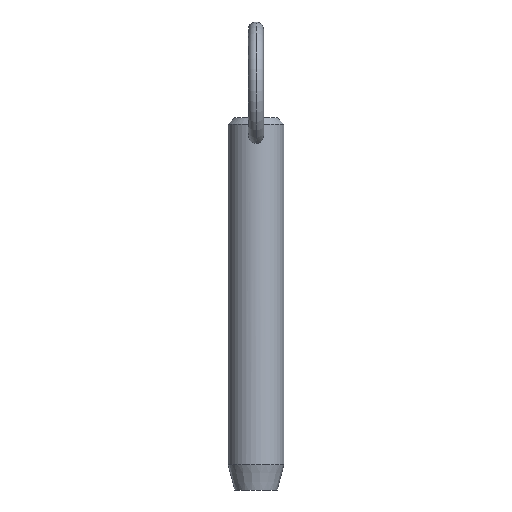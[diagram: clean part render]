
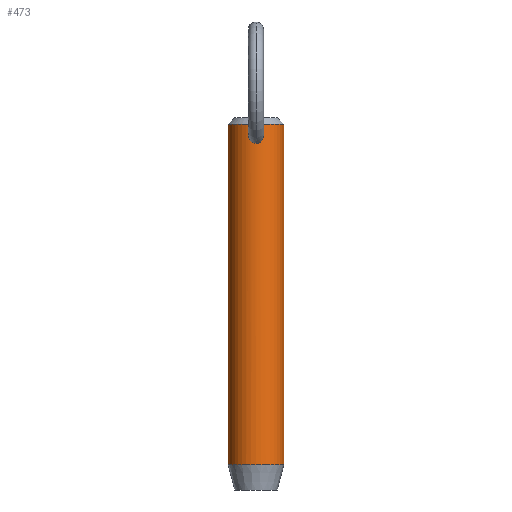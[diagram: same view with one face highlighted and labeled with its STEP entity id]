
A CAD part, front view. The second image highlights one B-rep face of the part: STEP entity #473.
In plain terms, the highlighted cylindrical face has radius 5.55 mm (diameter 11.1 mm), a partial arc.
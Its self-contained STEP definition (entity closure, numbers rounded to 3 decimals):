
#1 = EDGE_CURVE ( 'NONE', #300, #58, #327, .T. ) ;
#13 = VECTOR ( 'NONE', #354, 1000. ) ;
#14 = EDGE_CURVE ( 'NONE', #20, #58, #146, .T. ) ;
#20 = VERTEX_POINT ( 'NONE', #51 ) ;
#31 = CARTESIAN_POINT ( 'NONE',  ( 1.363, -5.38, 55.434 ) ) ;
#32 = CARTESIAN_POINT ( 'NONE',  ( 5.55, 0., 53.3 ) ) ;
#34 = CARTESIAN_POINT ( 'NONE',  ( 1.055, -5.449, 55.005 ) ) ;
#36 = CARTESIAN_POINT ( 'NONE',  ( 0.716, -5.504, 54.752 ) ) ;
#38 = CARTESIAN_POINT ( 'NONE',  ( 0.214, -5.547, 58.028 ) ) ;
#47 = B_SPLINE_CURVE_WITH_KNOTS ( 'NONE', 3,
 ( #307, #270, #38, #325, #436, #234, #277, #393, #198, #522, #434, #398, #357, #363, #117, #31, #479, #34, #360, #114, #36, #279, #317, #76, #194, #145 ),
 .UNSPECIFIED., .F., .F.,
 ( 4, 2, 2, 2, 2, 2, 2, 2, 2, 2, 2, 2, 4 ),
 ( 0.005, 0.005, 0.005, 0.006, 0.006, 0.007, 0.007, 0.008, 0.008, 0.009, 0.009, 0.009, 0.01 ),
 .UNSPECIFIED. ) ;
#51 = CARTESIAN_POINT ( 'NONE',  ( 5.55, 0., 58.35 ) ) ;
#55 = CARTESIAN_POINT ( 'NONE',  ( -1.44, -5.36, 56.687 ) ) ;
#58 = VERTEX_POINT ( 'NONE', #150 ) ;
#59 = CARTESIAN_POINT ( 'NONE',  ( -0.785, -5.497, 57.758 ) ) ;
#76 = CARTESIAN_POINT ( 'NONE',  ( 0.213, -5.547, 54.588 ) ) ;
#82 = CARTESIAN_POINT ( 'NONE',  ( 0., -5.55, 54.577 ) ) ;
#83 = CARTESIAN_POINT ( 'NONE',  ( -0.107, -5.55, 54.577 ) ) ;
#94 = EDGE_LOOP ( 'NONE', ( #511, #323 ) ) ;
#109 = CARTESIAN_POINT ( 'NONE',  ( -0.106, -5.55, 58.045 ) ) ;
#114 = CARTESIAN_POINT ( 'NONE',  ( 0.807, -5.492, 54.806 ) ) ;
#117 = CARTESIAN_POINT ( 'NONE',  ( 1.455, -5.356, 55.738 ) ) ;
#119 = CARTESIAN_POINT ( 'NONE',  ( -1.054, -5.449, 55.004 ) ) ;
#130 = CARTESIAN_POINT ( 'NONE',  ( -5.55, 0., 58.35 ) ) ;
#134 = CARTESIAN_POINT ( 'NONE',  ( -0.416, -5.535, 57.967 ) ) ;
#139 = FACE_OUTER_BOUND ( 'NONE', #359, .T. ) ;
#143 = AXIS2_PLACEMENT_3D ( 'NONE', #148, #153, #314 ) ;
#145 = CARTESIAN_POINT ( 'NONE',  ( 0., -5.55, 54.577 ) ) ;
#146 = LINE ( 'NONE', #32, #222 ) ;
#148 = CARTESIAN_POINT ( 'NONE',  ( 0., 0., 58.35 ) ) ;
#150 = CARTESIAN_POINT ( 'NONE',  ( 5.55, 0., -9.2 ) ) ;
#152 = CARTESIAN_POINT ( 'NONE',  ( -0.807, -5.492, 54.805 ) ) ;
#153 = DIRECTION ( 'NONE',  ( 0., 0., -1. ) ) ;
#176 = CARTESIAN_POINT ( 'NONE',  ( -1.477, -5.35, 55.842 ) ) ;
#180 = CARTESIAN_POINT ( 'NONE',  ( 0., -5.55, 58.045 ) ) ;
#187 = ORIENTED_EDGE ( 'NONE', *, *, #504, .T. ) ;
#194 = CARTESIAN_POINT ( 'NONE',  ( 0.107, -5.55, 54.577 ) ) ;
#196 = DIRECTION ( 'NONE',  ( 0., 0., 1. ) ) ;
#198 = CARTESIAN_POINT ( 'NONE',  ( 1.295, -5.397, 57.082 ) ) ;
#203 = CARTESIAN_POINT ( 'NONE',  ( -0.716, -5.504, 54.752 ) ) ;
#206 = CARTESIAN_POINT ( 'NONE',  ( -0.42, -5.535, 54.632 ) ) ;
#222 = VECTOR ( 'NONE', #358, 1000. ) ;
#234 = CARTESIAN_POINT ( 'NONE',  ( 0.786, -5.497, 57.757 ) ) ;
#237 = CARTESIAN_POINT ( 'NONE',  ( -1.26, -5.407, 55.242 ) ) ;
#239 = CARTESIAN_POINT ( 'NONE',  ( -5.55, 0., 53.3 ) ) ;
#245 = VERTEX_POINT ( 'NONE', #82 ) ;
#248 = CARTESIAN_POINT ( 'NONE',  ( -5.55, 0., -9.2 ) ) ;
#254 = VERTEX_POINT ( 'NONE', #130 ) ;
#260 = CARTESIAN_POINT ( 'NONE',  ( -1.503, -5.343, 56.159 ) ) ;
#266 = CARTESIAN_POINT ( 'NONE',  ( 0., 0., 53.3 ) ) ;
#270 = CARTESIAN_POINT ( 'NONE',  ( 0.106, -5.55, 58.045 ) ) ;
#277 = CARTESIAN_POINT ( 'NONE',  ( 0.941, -5.471, 57.607 ) ) ;
#279 = CARTESIAN_POINT ( 'NONE',  ( 0.523, -5.526, 54.666 ) ) ;
#280 = CARTESIAN_POINT ( 'NONE',  ( 0., -5.55, 54.577 ) ) ;
#287 = AXIS2_PLACEMENT_3D ( 'NONE', #356, #196, #478 ) ;
#293 = VERTEX_POINT ( 'NONE', #371 ) ;
#295 = CARTESIAN_POINT ( 'NONE',  ( -1.485, -5.348, 56.479 ) ) ;
#298 = CARTESIAN_POINT ( 'NONE',  ( -0.939, -5.472, 57.61 ) ) ;
#299 = EDGE_CURVE ( 'NONE', #245, #293, #404, .T. ) ;
#300 = VERTEX_POINT ( 'NONE', #248 ) ;
#302 = CYLINDRICAL_SURFACE ( 'NONE', #460, 5.55 ) ;
#304 = CARTESIAN_POINT ( 'NONE',  ( -1.455, -5.356, 55.736 ) ) ;
#307 = CARTESIAN_POINT ( 'NONE',  ( 0., -5.55, 58.045 ) ) ;
#314 = DIRECTION ( 'NONE',  ( 1., 0., 0. ) ) ;
#317 = CARTESIAN_POINT ( 'NONE',  ( 0.421, -5.535, 54.632 ) ) ;
#320 = CARTESIAN_POINT ( 'NONE',  ( -0.212, -5.547, 54.588 ) ) ;
#323 = ORIENTED_EDGE ( 'NONE', *, *, #299, .T. ) ;
#325 = CARTESIAN_POINT ( 'NONE',  ( 0.417, -5.535, 57.967 ) ) ;
#327 = CIRCLE ( 'NONE', #287, 5.55 ) ;
#339 = CIRCLE ( 'NONE', #143, 5.55 ) ;
#341 = CARTESIAN_POINT ( 'NONE',  ( -1.294, -5.398, 57.086 ) ) ;
#343 = CARTESIAN_POINT ( 'NONE',  ( -0.513, -5.527, 57.923 ) ) ;
#344 = ORIENTED_EDGE ( 'NONE', *, *, #14, .F. ) ;
#354 = DIRECTION ( 'NONE',  ( 0., 0., -1. ) ) ;
#356 = CARTESIAN_POINT ( 'NONE',  ( 0., 0., -9.2 ) ) ;
#357 = CARTESIAN_POINT ( 'NONE',  ( 1.5, -5.343, 56.054 ) ) ;
#358 = DIRECTION ( 'NONE',  ( 0., 0., -1. ) ) ;
#359 = EDGE_LOOP ( 'NONE', ( #344, #187, #395, #502 ) ) ;
#360 = CARTESIAN_POINT ( 'NONE',  ( 0.977, -5.464, 54.932 ) ) ;
#363 = CARTESIAN_POINT ( 'NONE',  ( 1.477, -5.35, 55.844 ) ) ;
#364 = CARTESIAN_POINT ( 'NONE',  ( -1.362, -5.381, 55.432 ) ) ;
#371 = CARTESIAN_POINT ( 'NONE',  ( 0., -5.55, 58.045 ) ) ;
#379 = CARTESIAN_POINT ( 'NONE',  ( -1.195, -5.421, 57.271 ) ) ;
#393 = CARTESIAN_POINT ( 'NONE',  ( 1.194, -5.422, 57.271 ) ) ;
#395 = ORIENTED_EDGE ( 'NONE', *, *, #486, .T. ) ;
#398 = CARTESIAN_POINT ( 'NONE',  ( 1.503, -5.343, 56.159 ) ) ;
#404 = B_SPLINE_CURVE_WITH_KNOTS ( 'NONE', 3,
 ( #280, #83, #320, #206, #489, #203, #152, #438, #119, #237, #364, #304, #176, #505, #260, #295, #55, #341, #379, #298, #59, #343, #134, #420, #109, #180 ),
 .UNSPECIFIED., .F., .F.,
 ( 4, 2, 2, 2, 2, 2, 2, 2, 2, 2, 2, 2, 4 ),
 ( 0.01, 0.01, 0.01, 0.011, 0.011, 0.012, 0.012, 0.012, 0.013, 0.013, 0.014, 0.014, 0.015 ),
 .UNSPECIFIED. ) ;
#420 = CARTESIAN_POINT ( 'NONE',  ( -0.211, -5.547, 58.029 ) ) ;
#430 = DIRECTION ( 'NONE',  ( -1., 0., 0. ) ) ;
#433 = FACE_BOUND ( 'NONE', #94, .T. ) ;
#434 = CARTESIAN_POINT ( 'NONE',  ( 1.486, -5.347, 56.474 ) ) ;
#436 = CARTESIAN_POINT ( 'NONE',  ( 0.515, -5.527, 57.922 ) ) ;
#438 = CARTESIAN_POINT ( 'NONE',  ( -0.976, -5.464, 54.931 ) ) ;
#460 = AXIS2_PLACEMENT_3D ( 'NONE', #266, #509, #430 ) ;
#472 = EDGE_CURVE ( 'NONE', #293, #245, #47, .T. ) ;
#473 = ADVANCED_FACE ( 'NONE', ( #139, #433 ), #302, .T. ) ;
#478 = DIRECTION ( 'NONE',  ( -1., 0., 0. ) ) ;
#479 = CARTESIAN_POINT ( 'NONE',  ( 1.26, -5.407, 55.243 ) ) ;
#486 = EDGE_CURVE ( 'NONE', #254, #300, #497, .T. ) ;
#489 = CARTESIAN_POINT ( 'NONE',  ( -0.523, -5.526, 54.666 ) ) ;
#497 = LINE ( 'NONE', #239, #13 ) ;
#502 = ORIENTED_EDGE ( 'NONE', *, *, #1, .T. ) ;
#504 = EDGE_CURVE ( 'NONE', #20, #254, #339, .T. ) ;
#505 = CARTESIAN_POINT ( 'NONE',  ( -1.5, -5.343, 56.053 ) ) ;
#509 = DIRECTION ( 'NONE',  ( 0., 0., -1. ) ) ;
#511 = ORIENTED_EDGE ( 'NONE', *, *, #472, .T. ) ;
#522 = CARTESIAN_POINT ( 'NONE',  ( 1.44, -5.36, 56.686 ) ) ;
